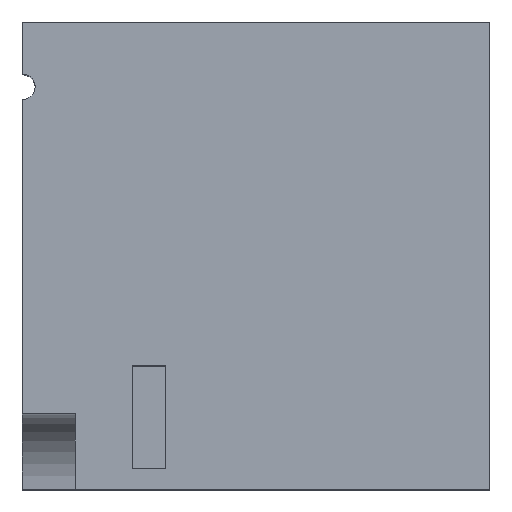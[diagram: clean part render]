
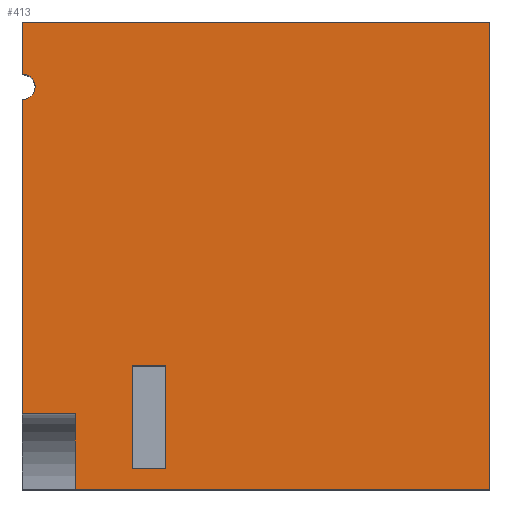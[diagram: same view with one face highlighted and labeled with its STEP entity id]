
A CAD part, top view. The second image highlights one B-rep face of the part: STEP entity #413.
In plain terms, the highlighted planar face has unit normal (0, 0, 1).
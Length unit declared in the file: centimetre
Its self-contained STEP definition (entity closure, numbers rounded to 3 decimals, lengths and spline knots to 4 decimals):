
#22 = ORIENTED_EDGE ( 'NONE', *, *, #446, .T. ) ;
#31 = DIRECTION ( 'NONE',  ( 0., 0., -1. ) ) ;
#34 = VECTOR ( 'NONE', #494, 100. ) ;
#35 = DIRECTION ( 'NONE',  ( 0., -1., 0. ) ) ;
#47 = CARTESIAN_POINT ( 'NONE',  ( 234.8563, 264.2007, 1000. ) ) ;
#56 = LINE ( 'NONE', #62, #518 ) ;
#62 = CARTESIAN_POINT ( 'NONE',  ( 0., 0., 1000. ) ) ;
#79 = VECTOR ( 'NONE', #349, 100. ) ;
#82 = LINE ( 'NONE', #957, #34 ) ;
#88 = VERTEX_POINT ( 'NONE', #964 ) ;
#121 = EDGE_CURVE ( 'NONE', #937, #185, #975, .T. ) ;
#131 = VECTOR ( 'NONE', #441, 100. ) ;
#133 = EDGE_CURVE ( 'NONE', #480, #537, #210, .T. ) ;
#145 = VECTOR ( 'NONE', #820, 100. ) ;
#150 = ORIENTED_EDGE ( 'NONE', *, *, #727, .T. ) ;
#154 = CARTESIAN_POINT ( 'NONE',  ( 234.8563, 45.1203, 1000. ) ) ;
#178 = EDGE_CURVE ( 'NONE', #219, #370, #259, .T. ) ;
#185 = VERTEX_POINT ( 'NONE', #352 ) ;
#203 = LINE ( 'NONE', #836, #131 ) ;
#204 = EDGE_CURVE ( 'NONE', #537, #185, #272, .T. ) ;
#207 = CARTESIAN_POINT ( 'NONE',  ( 1000., 0., 1000. ) ) ;
#210 = CIRCLE ( 'NONE', #347, 27.2659 ) ;
#211 = VECTOR ( 'NONE', #304, 100. ) ;
#219 = VERTEX_POINT ( 'NONE', #47 ) ;
#227 = EDGE_LOOP ( 'NONE', ( #863, #541, #461, #968 ) ) ;
#230 = LINE ( 'NONE', #154, #308 ) ;
#231 = VERTEX_POINT ( 'NONE', #207 ) ;
#259 = LINE ( 'NONE', #743, #562 ) ;
#268 = DIRECTION ( 'NONE',  ( -1., 0., 0. ) ) ;
#272 = LINE ( 'NONE', #734, #145 ) ;
#275 = VECTOR ( 'NONE', #513, 100. ) ;
#281 = DIRECTION ( 'NONE',  ( 1., 0., 0. ) ) ;
#292 = EDGE_CURVE ( 'NONE', #294, #312, #203, .T. ) ;
#294 = VERTEX_POINT ( 'NONE', #674 ) ;
#297 = DIRECTION ( 'NONE',  ( 0., 0., 1. ) ) ;
#304 = DIRECTION ( 'NONE',  ( 0., -1., 0. ) ) ;
#308 = VECTOR ( 'NONE', #465, 100. ) ;
#312 = VERTEX_POINT ( 'NONE', #828 ) ;
#327 = PLANE ( 'NONE',  #889 ) ;
#347 = AXIS2_PLACEMENT_3D ( 'NONE', #495, #31, #268 ) ;
#349 = DIRECTION ( 'NONE',  ( -1., 0., 0. ) ) ;
#352 = CARTESIAN_POINT ( 'NONE',  ( 0., 161.1533, 1000. ) ) ;
#370 = VERTEX_POINT ( 'NONE', #759 ) ;
#376 = ORIENTED_EDGE ( 'NONE', *, *, #491, .T. ) ;
#379 = CARTESIAN_POINT ( 'NONE',  ( 113.5005, 0., 1000. ) ) ;
#413 = ADVANCED_FACE ( 'NONE', ( #636, #1011 ), #327, .T. ) ;
#441 = DIRECTION ( 'NONE',  ( 0., 1., 0. ) ) ;
#446 = EDGE_CURVE ( 'NONE', #937, #620, #1003, .T. ) ;
#452 = EDGE_CURVE ( 'NONE', #370, #294, #230, .T. ) ;
#461 = ORIENTED_EDGE ( 'NONE', *, *, #292, .F. ) ;
#465 = DIRECTION ( 'NONE',  ( 1., 0., 0. ) ) ;
#480 = VERTEX_POINT ( 'NONE', #789 ) ;
#491 = EDGE_CURVE ( 'NONE', #231, #532, #82, .T. ) ;
#494 = DIRECTION ( 'NONE',  ( 0., 1., 0. ) ) ;
#495 = CARTESIAN_POINT ( 'NONE',  ( 0., 861.3895, 1000. ) ) ;
#503 = CARTESIAN_POINT ( 'NONE',  ( 234.8563, 264.2007, 1000. ) ) ;
#513 = DIRECTION ( 'NONE',  ( -1., 0., 0. ) ) ;
#518 = VECTOR ( 'NONE', #281, 100. ) ;
#532 = VERTEX_POINT ( 'NONE', #879 ) ;
#533 = CARTESIAN_POINT ( 'NONE',  ( 0., 1000., 1000. ) ) ;
#537 = VERTEX_POINT ( 'NONE', #728 ) ;
#541 = ORIENTED_EDGE ( 'NONE', *, *, #598, .F. ) ;
#562 = VECTOR ( 'NONE', #35, 100. ) ;
#577 = LINE ( 'NONE', #503, #724 ) ;
#598 = EDGE_CURVE ( 'NONE', #312, #219, #577, .T. ) ;
#604 = EDGE_CURVE ( 'NONE', #532, #88, #670, .T. ) ;
#620 = VERTEX_POINT ( 'NONE', #752 ) ;
#622 = ORIENTED_EDGE ( 'NONE', *, *, #604, .T. ) ;
#636 = FACE_OUTER_BOUND ( 'NONE', #878, .T. ) ;
#651 = ORIENTED_EDGE ( 'NONE', *, *, #792, .T. ) ;
#670 = LINE ( 'NONE', #818, #275 ) ;
#674 = CARTESIAN_POINT ( 'NONE',  ( 306.891, 45.1203, 1000. ) ) ;
#689 = LINE ( 'NONE', #533, #847 ) ;
#694 = DIRECTION ( 'NONE',  ( 0., -1., 0. ) ) ;
#706 = CARTESIAN_POINT ( 'NONE',  ( 0., 0., 1000. ) ) ;
#724 = VECTOR ( 'NONE', #893, 100. ) ;
#727 = EDGE_CURVE ( 'NONE', #88, #480, #689, .T. ) ;
#728 = CARTESIAN_POINT ( 'NONE',  ( 0., 834.1235, 1000. ) ) ;
#734 = CARTESIAN_POINT ( 'NONE',  ( 0., 1000., 1000. ) ) ;
#743 = CARTESIAN_POINT ( 'NONE',  ( 234.8563, 45.1203, 1000. ) ) ;
#752 = CARTESIAN_POINT ( 'NONE',  ( 113.5005, 0., 1000. ) ) ;
#759 = CARTESIAN_POINT ( 'NONE',  ( 234.8563, 45.1203, 1000. ) ) ;
#783 = ORIENTED_EDGE ( 'NONE', *, *, #133, .T. ) ;
#789 = CARTESIAN_POINT ( 'NONE',  ( 0., 888.6554, 1000. ) ) ;
#792 = EDGE_CURVE ( 'NONE', #620, #231, #56, .T. ) ;
#802 = ORIENTED_EDGE ( 'NONE', *, *, #121, .F. ) ;
#817 = CARTESIAN_POINT ( 'NONE',  ( 113.5005, 161.1533, 1000. ) ) ;
#818 = CARTESIAN_POINT ( 'NONE',  ( 0., 1000., 1000. ) ) ;
#820 = DIRECTION ( 'NONE',  ( 0., -1., 0. ) ) ;
#828 = CARTESIAN_POINT ( 'NONE',  ( 306.891, 264.2007, 1000. ) ) ;
#836 = CARTESIAN_POINT ( 'NONE',  ( 306.891, 45.1203, 1000. ) ) ;
#847 = VECTOR ( 'NONE', #694, 100. ) ;
#863 = ORIENTED_EDGE ( 'NONE', *, *, #178, .F. ) ;
#866 = CARTESIAN_POINT ( 'NONE',  ( 113.5005, 161.1533, 1000. ) ) ;
#869 = DIRECTION ( 'NONE',  ( 1., 0., 0. ) ) ;
#878 = EDGE_LOOP ( 'NONE', ( #783, #930, #802, #22, #651, #376, #622, #150 ) ) ;
#879 = CARTESIAN_POINT ( 'NONE',  ( 1000., 1000., 1000. ) ) ;
#889 = AXIS2_PLACEMENT_3D ( 'NONE', #706, #297, #869 ) ;
#893 = DIRECTION ( 'NONE',  ( -1., 0., 0. ) ) ;
#930 = ORIENTED_EDGE ( 'NONE', *, *, #204, .T. ) ;
#937 = VERTEX_POINT ( 'NONE', #866 ) ;
#957 = CARTESIAN_POINT ( 'NONE',  ( 1000., 1000., 1000. ) ) ;
#964 = CARTESIAN_POINT ( 'NONE',  ( 0., 1000., 1000. ) ) ;
#968 = ORIENTED_EDGE ( 'NONE', *, *, #452, .F. ) ;
#975 = LINE ( 'NONE', #817, #79 ) ;
#1003 = LINE ( 'NONE', #379, #211 ) ;
#1011 = FACE_BOUND ( 'NONE', #227, .T. ) ;
